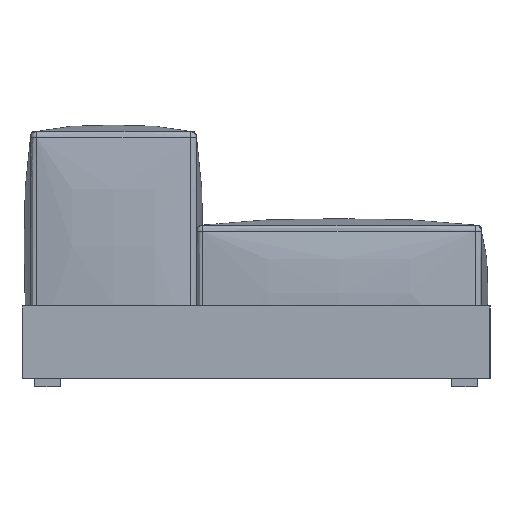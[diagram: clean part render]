
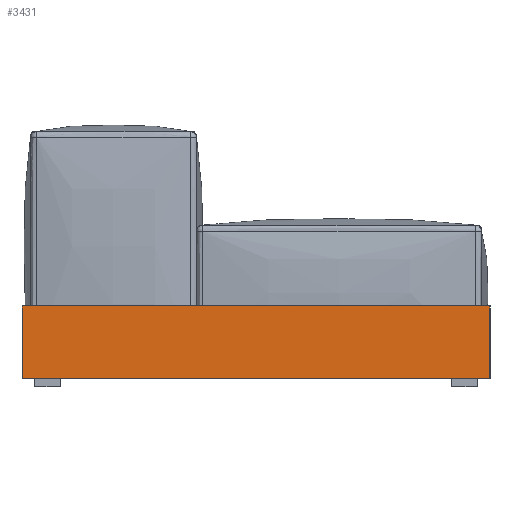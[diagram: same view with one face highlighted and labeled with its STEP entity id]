
A CAD part, left-side view. The second image highlights one B-rep face of the part: STEP entity #3431.
In plain terms, the highlighted planar face has unit normal (-1, 0, 0).
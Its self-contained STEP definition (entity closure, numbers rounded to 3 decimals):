
#122=PLANE('',#3847);
#260=LINE('',#14310,#482);
#261=LINE('',#14312,#483);
#262=LINE('',#14314,#484);
#263=LINE('',#14315,#485);
#482=VECTOR('',#4479,10.);
#483=VECTOR('',#4480,10.);
#484=VECTOR('',#4481,10.);
#485=VECTOR('',#4482,10.);
#1023=FACE_OUTER_BOUND('',#1275,.T.);
#1275=EDGE_LOOP('',(#2879,#2880,#2881,#2882));
#1663=VERTEX_POINT('',#14308);
#1664=VERTEX_POINT('',#14309);
#1665=VERTEX_POINT('',#14311);
#1666=VERTEX_POINT('',#14313);
#2087=EDGE_CURVE('',#1663,#1664,#260,.T.);
#2088=EDGE_CURVE('',#1663,#1665,#261,.T.);
#2089=EDGE_CURVE('',#1666,#1665,#262,.T.);
#2090=EDGE_CURVE('',#1664,#1666,#263,.T.);
#2879=ORIENTED_EDGE('',*,*,#2087,.F.);
#2880=ORIENTED_EDGE('',*,*,#2088,.T.);
#2881=ORIENTED_EDGE('',*,*,#2089,.F.);
#2882=ORIENTED_EDGE('',*,*,#2090,.F.);
#3431=ADVANCED_FACE('',(#1023),#122,.T.);
#3847=AXIS2_PLACEMENT_3D('',#14307,#4477,#4478);
#4477=DIRECTION('center_axis',(-1.,0.,0.));
#4478=DIRECTION('ref_axis',(0.,-1.,0.));
#4479=DIRECTION('',(0.,1.,0.));
#4480=DIRECTION('',(0.,0.,1.));
#4481=DIRECTION('',(0.,-1.,0.));
#4482=DIRECTION('',(0.,0.,1.));
#14307=CARTESIAN_POINT('Origin',(-1300.,550.,0.));
#14308=CARTESIAN_POINT('',(-1300.,-550.,0.));
#14309=CARTESIAN_POINT('',(-1300.,550.,0.));
#14310=CARTESIAN_POINT('',(-1300.,-550.,0.));
#14311=CARTESIAN_POINT('',(-1300.,-550.,170.));
#14312=CARTESIAN_POINT('',(-1300.,-550.,0.));
#14313=CARTESIAN_POINT('',(-1300.,550.,170.));
#14314=CARTESIAN_POINT('',(-1300.,-550.,170.));
#14315=CARTESIAN_POINT('',(-1300.,550.,0.));
